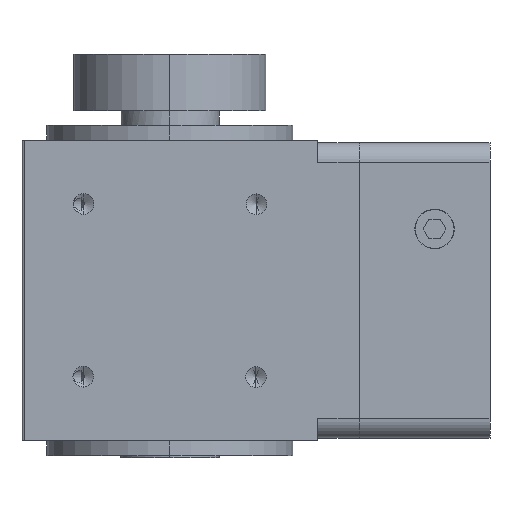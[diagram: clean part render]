
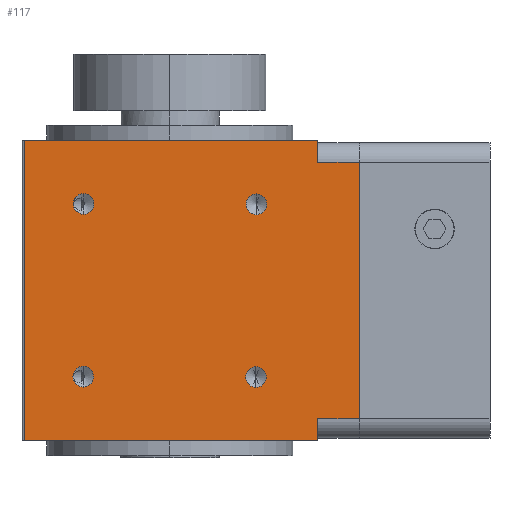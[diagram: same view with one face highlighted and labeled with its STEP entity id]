
A CAD part, left-side view. The second image highlights one B-rep face of the part: STEP entity #117.
In plain terms, the highlighted planar face has unit normal (-1, 0, 0).
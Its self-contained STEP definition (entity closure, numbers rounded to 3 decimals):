
#16 = VECTOR ( 'NONE', #1156, 1000. ) ;
#46 = EDGE_CURVE ( 'NONE', #1960, #5996, #1337, .T. ) ;
#81 = CARTESIAN_POINT ( 'NONE',  ( -30., 30., -30.5 ) ) ;
#117 = ADVANCED_FACE ( 'NONE', ( #3952, #332, #1737, #3036, #5087 ), #5185, .F. ) ;
#139 = DIRECTION ( 'NONE',  ( -1., 0., 0. ) ) ;
#187 = ORIENTED_EDGE ( 'NONE', *, *, #820, .F. ) ;
#197 = CARTESIAN_POINT ( 'NONE',  ( -30., 17.5, 17.571 ) ) ;
#290 = LINE ( 'NONE', #4133, #4893 ) ;
#327 = LINE ( 'NONE', #2167, #6251 ) ;
#332 = FACE_BOUND ( 'NONE', #3199, .T. ) ;
#362 = EDGE_CURVE ( 'NONE', #408, #5123, #1894, .T. ) ;
#408 = VERTEX_POINT ( 'NONE', #441 ) ;
#441 = CARTESIAN_POINT ( 'NONE',  ( -30., 29.5, 30.5 ) ) ;
#594 = CARTESIAN_POINT ( 'NONE',  ( -30., -17.5, -15.471 ) ) ;
#629 = ORIENTED_EDGE ( 'NONE', *, *, #2827, .T. ) ;
#668 = EDGE_CURVE ( 'NONE', #5123, #6129, #327, .T. ) ;
#729 = ORIENTED_EDGE ( 'NONE', *, *, #1643, .T. ) ;
#761 = CARTESIAN_POINT ( 'NONE',  ( -30., 30., 30.5 ) ) ;
#787 = DIRECTION ( 'NONE',  ( 0., 0., 1. ) ) ;
#820 = EDGE_CURVE ( 'NONE', #5074, #2327, #2421, .T. ) ;
#874 = VECTOR ( 'NONE', #4399, 1000. ) ;
#911 = DIRECTION ( 'NONE',  ( 0., 0., 1. ) ) ;
#1037 = AXIS2_PLACEMENT_3D ( 'NONE', #1805, #4705, #787 ) ;
#1057 = CARTESIAN_POINT ( 'NONE',  ( -30., 29.5, -30.5 ) ) ;
#1068 = ORIENTED_EDGE ( 'NONE', *, *, #1812, .F. ) ;
#1127 = EDGE_CURVE ( 'NONE', #1426, #2255, #1655, .T. ) ;
#1156 = DIRECTION ( 'NONE',  ( 0., 0., -1. ) ) ;
#1217 = DIRECTION ( 'NONE',  ( 0., 1., 0. ) ) ;
#1268 = CARTESIAN_POINT ( 'NONE',  ( -30., 30., 26. ) ) ;
#1302 = EDGE_CURVE ( 'NONE', #4600, #2066, #5613, .T. ) ;
#1318 = CARTESIAN_POINT ( 'NONE',  ( -30., -17.571, 19.6 ) ) ;
#1337 = LINE ( 'NONE', #4559, #16 ) ;
#1394 = ORIENTED_EDGE ( 'NONE', *, *, #4362, .F. ) ;
#1426 = VERTEX_POINT ( 'NONE', #1318 ) ;
#1436 = DIRECTION ( 'NONE',  ( 0., -1., 0. ) ) ;
#1443 = CIRCLE ( 'NONE', #2498, 2.1 ) ;
#1514 = CARTESIAN_POINT ( 'NONE',  ( -30., 17.571, -17.5 ) ) ;
#1624 = CARTESIAN_POINT ( 'NONE',  ( -30., -17.5, -17.571 ) ) ;
#1643 = EDGE_CURVE ( 'NONE', #408, #4958, #5069, .T. ) ;
#1655 = CIRCLE ( 'NONE', #1037, 2.1 ) ;
#1737 = FACE_BOUND ( 'NONE', #2361, .T. ) ;
#1741 = DIRECTION ( 'NONE',  ( 1., 0., 0. ) ) ;
#1748 = AXIS2_PLACEMENT_3D ( 'NONE', #1624, #5040, #3612 ) ;
#1775 = ORIENTED_EDGE ( 'NONE', *, *, #46, .F. ) ;
#1786 = VERTEX_POINT ( 'NONE', #594 ) ;
#1805 = CARTESIAN_POINT ( 'NONE',  ( -30., -17.571, 17.5 ) ) ;
#1812 = EDGE_CURVE ( 'NONE', #3071, #1786, #5843, .T. ) ;
#1894 = LINE ( 'NONE', #3865, #2511 ) ;
#1928 = LINE ( 'NONE', #81, #2699 ) ;
#1960 = VERTEX_POINT ( 'NONE', #6185 ) ;
#2004 = EDGE_LOOP ( 'NONE', ( #187, #3108 ) ) ;
#2018 = ORIENTED_EDGE ( 'NONE', *, *, #3440, .T. ) ;
#2066 = VERTEX_POINT ( 'NONE', #6299 ) ;
#2106 = ORIENTED_EDGE ( 'NONE', *, *, #5363, .F. ) ;
#2137 = AXIS2_PLACEMENT_3D ( 'NONE', #4916, #5969, #4980 ) ;
#2160 = AXIS2_PLACEMENT_3D ( 'NONE', #5773, #3747, #2287 ) ;
#2167 = CARTESIAN_POINT ( 'NONE',  ( -30., -30., 30.5 ) ) ;
#2216 = CARTESIAN_POINT ( 'NONE',  ( -30., -17.571, 15.4 ) ) ;
#2255 = VERTEX_POINT ( 'NONE', #2216 ) ;
#2287 = DIRECTION ( 'NONE',  ( 0., 0., 1. ) ) ;
#2322 = CIRCLE ( 'NONE', #4606, 2.1 ) ;
#2327 = VERTEX_POINT ( 'NONE', #2676 ) ;
#2333 = ORIENTED_EDGE ( 'NONE', *, *, #362, .F. ) ;
#2361 = EDGE_LOOP ( 'NONE', ( #1394, #1068 ) ) ;
#2421 = CIRCLE ( 'NONE', #3777, 2.1 ) ;
#2494 = ORIENTED_EDGE ( 'NONE', *, *, #668, .F. ) ;
#2498 = AXIS2_PLACEMENT_3D ( 'NONE', #197, #5570, #3606 ) ;
#2511 = VECTOR ( 'NONE', #1436, 1000. ) ;
#2540 = CIRCLE ( 'NONE', #1748, 2.1 ) ;
#2555 = LINE ( 'NONE', #1268, #6136 ) ;
#2676 = CARTESIAN_POINT ( 'NONE',  ( -30., 17.571, -19.6 ) ) ;
#2699 = VECTOR ( 'NONE', #3033, 1000. ) ;
#2827 = EDGE_CURVE ( 'NONE', #4600, #6129, #2555, .T. ) ;
#2904 = DIRECTION ( 'NONE',  ( -1., 0., 0. ) ) ;
#2912 = EDGE_CURVE ( 'NONE', #5781, #5867, #5358, .T. ) ;
#3033 = DIRECTION ( 'NONE',  ( 0., -1., 0. ) ) ;
#3036 = FACE_BOUND ( 'NONE', #2004, .T. ) ;
#3071 = VERTEX_POINT ( 'NONE', #5945 ) ;
#3093 = CARTESIAN_POINT ( 'NONE',  ( -30., -17.5, -17.571 ) ) ;
#3108 = ORIENTED_EDGE ( 'NONE', *, *, #3824, .F. ) ;
#3199 = EDGE_LOOP ( 'NONE', ( #3844, #2106 ) ) ;
#3440 = EDGE_CURVE ( 'NONE', #4958, #5996, #1928, .T. ) ;
#3474 = ORIENTED_EDGE ( 'NONE', *, *, #2912, .F. ) ;
#3533 = CARTESIAN_POINT ( 'NONE',  ( -30., -38.5, 30.5 ) ) ;
#3596 = DIRECTION ( 'NONE',  ( 0., 0., 1. ) ) ;
#3606 = DIRECTION ( 'NONE',  ( 0., 0., 1. ) ) ;
#3612 = DIRECTION ( 'NONE',  ( 0., 0., 1. ) ) ;
#3637 = ORIENTED_EDGE ( 'NONE', *, *, #5525, .F. ) ;
#3675 = CARTESIAN_POINT ( 'NONE',  ( -30., -30., 30.5 ) ) ;
#3679 = DIRECTION ( 'NONE',  ( 0., 0., -1. ) ) ;
#3705 = CARTESIAN_POINT ( 'NONE',  ( -30., -30., -30.5 ) ) ;
#3747 = DIRECTION ( 'NONE',  ( -1., 0., 0. ) ) ;
#3777 = AXIS2_PLACEMENT_3D ( 'NONE', #5778, #2904, #911 ) ;
#3824 = EDGE_CURVE ( 'NONE', #2327, #5074, #2322, .T. ) ;
#3844 = ORIENTED_EDGE ( 'NONE', *, *, #1127, .F. ) ;
#3865 = CARTESIAN_POINT ( 'NONE',  ( -30., 30., 30.5 ) ) ;
#3952 = FACE_BOUND ( 'NONE', #4631, .T. ) ;
#3983 = DIRECTION ( 'NONE',  ( 0., 0., 1. ) ) ;
#4107 = EDGE_CURVE ( 'NONE', #1960, #2066, #290, .T. ) ;
#4133 = CARTESIAN_POINT ( 'NONE',  ( -30., 30., -26. ) ) ;
#4190 = DIRECTION ( 'NONE',  ( 0., 1., 0. ) ) ;
#4200 = CARTESIAN_POINT ( 'NONE',  ( -30., -38.5, 26. ) ) ;
#4345 = CARTESIAN_POINT ( 'NONE',  ( -30., 17.5, 15.471 ) ) ;
#4362 = EDGE_CURVE ( 'NONE', #1786, #3071, #2540, .T. ) ;
#4399 = DIRECTION ( 'NONE',  ( 0., 0., -1. ) ) ;
#4468 = EDGE_LOOP ( 'NONE', ( #5516, #629, #2494, #2333, #729, #2018, #1775, #5575 ) ) ;
#4487 = CARTESIAN_POINT ( 'NONE',  ( -30., 29.5, 30.5 ) ) ;
#4558 = AXIS2_PLACEMENT_3D ( 'NONE', #761, #1741, #4190 ) ;
#4559 = CARTESIAN_POINT ( 'NONE',  ( -30., -30., 30.5 ) ) ;
#4600 = VERTEX_POINT ( 'NONE', #4200 ) ;
#4606 = AXIS2_PLACEMENT_3D ( 'NONE', #1514, #5863, #3983 ) ;
#4631 = EDGE_LOOP ( 'NONE', ( #3637, #3474 ) ) ;
#4652 = DIRECTION ( 'NONE',  ( 0., 0., -1. ) ) ;
#4654 = CIRCLE ( 'NONE', #2137, 2.1 ) ;
#4705 = DIRECTION ( 'NONE',  ( -1., 0., 0. ) ) ;
#4893 = VECTOR ( 'NONE', #5117, 1000. ) ;
#4916 = CARTESIAN_POINT ( 'NONE',  ( -30., -17.571, 17.5 ) ) ;
#4954 = CARTESIAN_POINT ( 'NONE',  ( -30., 17.5, 19.671 ) ) ;
#4958 = VERTEX_POINT ( 'NONE', #1057 ) ;
#4980 = DIRECTION ( 'NONE',  ( 0., 0., 1. ) ) ;
#5036 = AXIS2_PLACEMENT_3D ( 'NONE', #3093, #139, #3596 ) ;
#5040 = DIRECTION ( 'NONE',  ( -1., 0., 0. ) ) ;
#5069 = LINE ( 'NONE', #4487, #874 ) ;
#5074 = VERTEX_POINT ( 'NONE', #5537 ) ;
#5087 = FACE_OUTER_BOUND ( 'NONE', #4468, .T. ) ;
#5117 = DIRECTION ( 'NONE',  ( 0., -1., 0. ) ) ;
#5123 = VERTEX_POINT ( 'NONE', #3675 ) ;
#5185 = PLANE ( 'NONE',  #4558 ) ;
#5358 = CIRCLE ( 'NONE', #2160, 2.1 ) ;
#5363 = EDGE_CURVE ( 'NONE', #2255, #1426, #4654, .T. ) ;
#5516 = ORIENTED_EDGE ( 'NONE', *, *, #1302, .F. ) ;
#5525 = EDGE_CURVE ( 'NONE', #5867, #5781, #1443, .T. ) ;
#5537 = CARTESIAN_POINT ( 'NONE',  ( -30., 17.571, -15.4 ) ) ;
#5570 = DIRECTION ( 'NONE',  ( -1., 0., 0. ) ) ;
#5575 = ORIENTED_EDGE ( 'NONE', *, *, #4107, .T. ) ;
#5613 = LINE ( 'NONE', #3533, #6088 ) ;
#5773 = CARTESIAN_POINT ( 'NONE',  ( -30., 17.5, 17.571 ) ) ;
#5778 = CARTESIAN_POINT ( 'NONE',  ( -30., 17.571, -17.5 ) ) ;
#5781 = VERTEX_POINT ( 'NONE', #4345 ) ;
#5785 = CARTESIAN_POINT ( 'NONE',  ( -30., -30., 26. ) ) ;
#5843 = CIRCLE ( 'NONE', #5036, 2.1 ) ;
#5863 = DIRECTION ( 'NONE',  ( -1., 0., 0. ) ) ;
#5867 = VERTEX_POINT ( 'NONE', #4954 ) ;
#5945 = CARTESIAN_POINT ( 'NONE',  ( -30., -17.5, -19.671 ) ) ;
#5969 = DIRECTION ( 'NONE',  ( -1., 0., 0. ) ) ;
#5996 = VERTEX_POINT ( 'NONE', #3705 ) ;
#6088 = VECTOR ( 'NONE', #4652, 1000. ) ;
#6129 = VERTEX_POINT ( 'NONE', #5785 ) ;
#6136 = VECTOR ( 'NONE', #1217, 1000. ) ;
#6185 = CARTESIAN_POINT ( 'NONE',  ( -30., -30., -26. ) ) ;
#6251 = VECTOR ( 'NONE', #3679, 1000. ) ;
#6299 = CARTESIAN_POINT ( 'NONE',  ( -30., -38.5, -26. ) ) ;
